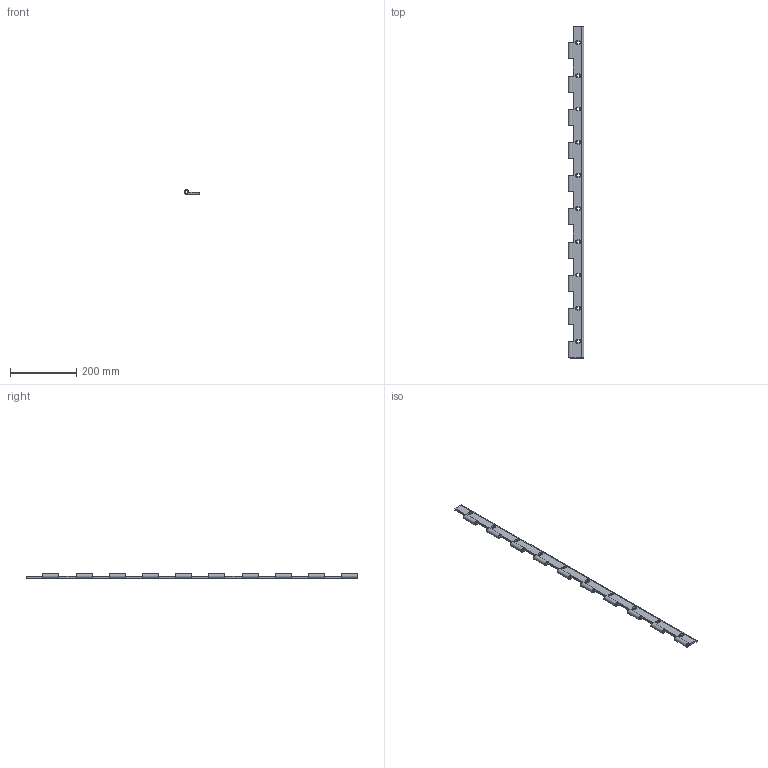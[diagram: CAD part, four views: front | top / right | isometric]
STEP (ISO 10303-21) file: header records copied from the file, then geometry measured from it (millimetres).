
FILE_DESCRIPTION (( 'STEP AP203' ), '1' );
FILE_NAME ('084.500.020.STEP', '2015-06-03T12:50:10', ( '' ), ( '' ), 'SwSTEP 2.0', 'SolidWorks 2012', '' );
FILE_SCHEMA (( 'CONFIG_CONTROL_DESIGN' ));
Length unit declared in the file: millimetre
Products named in the file (1): 084.500.020
Bounding box: 47.49 x 1000 x 13.97 mm (x, y, z)
Volume: 254226.8 mm3; surface area: 108815.3 mm2
Topology: 1 solids, 1 shells, 174 faces, 486 edges, 324 vertices
Faces by surface type: cylinder 91, plane 83
Entity records: 5809 total; most frequent: DIRECTION 1018, CARTESIAN_POINT 985, ORIENTED_EDGE 972, EDGE_CURVE 486, AXIS2_PLACEMENT_3D 357, VERTEX_POINT 324, LINE 304, VECTOR 304
